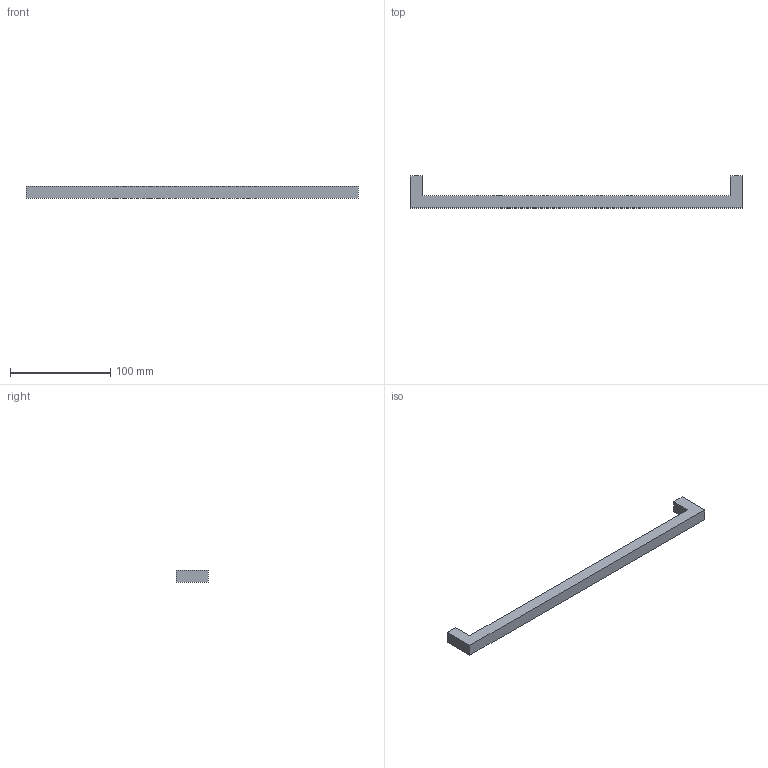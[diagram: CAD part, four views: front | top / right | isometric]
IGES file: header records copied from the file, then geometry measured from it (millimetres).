
Start section: Data from Parasolid IGES Translator 15.0.47, Copyright(c) 2006 Siemens P LM Software. All Rights Reserved.
Global section: file name: 9207349.igs; native system:  By UGS Corp.; preprocessor: XPlus GENERIC/IGES 3.0; author: Noname; organization: Noname; date: 20151215.135620; units: millimetre
Bounding box: 332 x 32 x 12 mm (x, y, z)
Surface area: 18395.3 mm2 (no closed solid volume)
Topology: 0 solids, 0 shells, 14 faces, 60 edges, 58 vertices
Faces by surface type: extrusion 12, revolution 2
